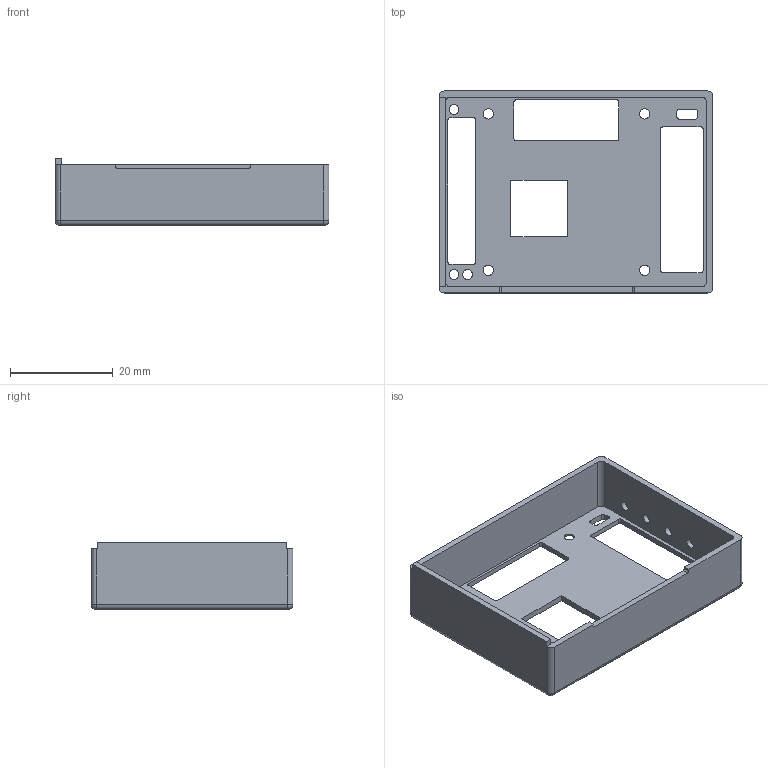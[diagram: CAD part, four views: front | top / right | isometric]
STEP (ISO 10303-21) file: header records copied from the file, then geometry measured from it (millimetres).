
FILE_DESCRIPTION(/* description */ ('STEP AP214'),/* implementation_level */ '2;1');
FILE_NAME(/* name */ '',/* time_stamp */ '2025-06-02T19:33:41+08:00',/* author */ (''),/* organization */ (''),/* preprocessor_version */ 'ST-DEVELOPER v20.1',/* originating_system */ 'Autodesk Translation Framework v14.4.0.0',/* authorisation */ '');
FILE_SCHEMA (('AUTOMOTIVE_DESIGN { 1 0 10303 214 3 1 1 }'));
Length unit declared in the file: millimetre
Products named in the file (1): H743上壳
Bounding box: 53.4 x 39.4 x 13.1 mm (x, y, z)
Volume: 3943 mm3; surface area: 7181.3 mm2
Topology: 1 solids, 1 shells, 113 faces, 304 edges, 193 vertices
Faces by surface type: plane 54, cylinder 46, cone 9, sphere 4
Full cylindrical faces by diameter (mm): 1.8 x5, 1.9 x3, 2 x4, 4 x4
Entity records: 3627 total; most frequent: DIRECTION 641, CARTESIAN_POINT 607, ORIENTED_EDGE 600, EDGE_CURVE 300, AXIS2_PLACEMENT_3D 227, VERTEX_POINT 193, LINE 187, VECTOR 187
